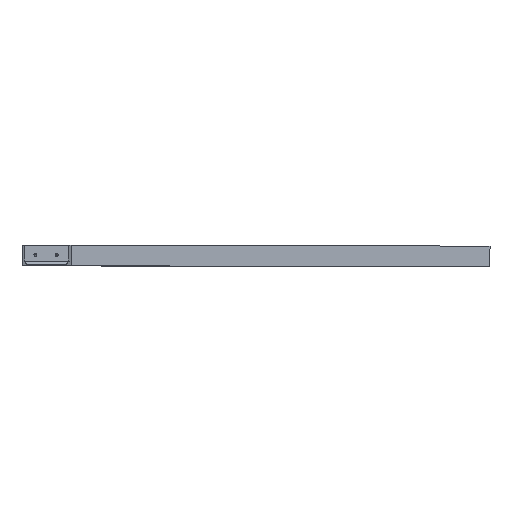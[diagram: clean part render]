
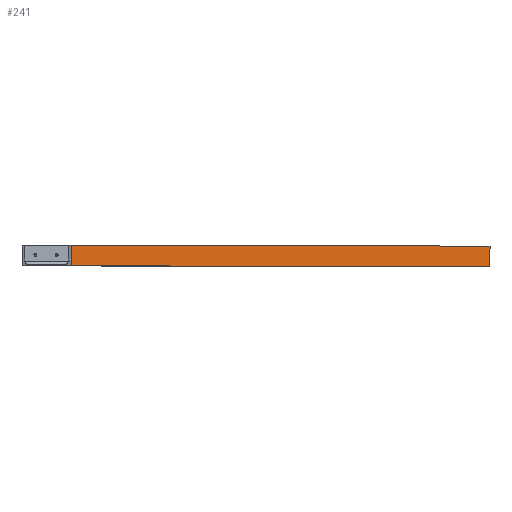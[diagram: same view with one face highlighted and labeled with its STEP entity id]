
A CAD part, top view. The second image highlights one B-rep face of the part: STEP entity #241.
In plain terms, the highlighted planar face has unit normal (0.707, 0, 0.707).
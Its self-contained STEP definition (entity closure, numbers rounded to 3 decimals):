
#124 = DIRECTION ( 'NONE',  ( -0.707, 0., -0.707 ) ) ;
#154 = FACE_OUTER_BOUND ( 'NONE', #2772, .T. ) ;
#241 = ADVANCED_FACE ( 'NONE', ( #154 ), #4562, .F. ) ;
#599 = VECTOR ( 'NONE', #2693, 1000. ) ;
#639 = ORIENTED_EDGE ( 'NONE', *, *, #850, .T. ) ;
#754 = AXIS2_PLACEMENT_3D ( 'NONE', #1750, #124, #2523 ) ;
#797 = DIRECTION ( 'NONE',  ( 0., 1., 0. ) ) ;
#837 = LINE ( 'NONE', #4047, #3122 ) ;
#841 = VECTOR ( 'NONE', #797, 1000. ) ;
#850 = EDGE_CURVE ( 'NONE', #4472, #3842, #1601, .T. ) ;
#868 = DIRECTION ( 'NONE',  ( 0., -1., 0. ) ) ;
#969 = ORIENTED_EDGE ( 'NONE', *, *, #2294, .T. ) ;
#1375 = CARTESIAN_POINT ( 'NONE',  ( 6874.558, 3545., -4000. ) ) ;
#1435 = EDGE_CURVE ( 'NONE', #4109, #2082, #837, .T. ) ;
#1549 = EDGE_CURVE ( 'NONE', #4109, #3842, #1873, .T. ) ;
#1601 = LINE ( 'NONE', #4812, #841 ) ;
#1750 = CARTESIAN_POINT ( 'NONE',  ( 5287.279, 3545., -2412.721 ) ) ;
#1873 = LINE ( 'NONE', #4709, #599 ) ;
#2082 = VERTEX_POINT ( 'NONE', #3013 ) ;
#2294 = EDGE_CURVE ( 'NONE', #2082, #4472, #2624, .T. ) ;
#2523 = DIRECTION ( 'NONE',  ( 0.707, 0., -0.707 ) ) ;
#2624 = LINE ( 'NONE', #5034, #2873 ) ;
#2693 = DIRECTION ( 'NONE',  ( 0.707, 0., -0.707 ) ) ;
#2772 = EDGE_LOOP ( 'NONE', ( #639, #5203, #3038, #969 ) ) ;
#2800 = CARTESIAN_POINT ( 'NONE',  ( 5340., 3620., -2465.442 ) ) ;
#2873 = VECTOR ( 'NONE', #5195, 1000. ) ;
#3013 = CARTESIAN_POINT ( 'NONE',  ( 5340., 3545., -2465.442 ) ) ;
#3038 = ORIENTED_EDGE ( 'NONE', *, *, #1435, .T. ) ;
#3108 = CARTESIAN_POINT ( 'NONE',  ( 6874.558, 3620., -4000. ) ) ;
#3122 = VECTOR ( 'NONE', #868, 1000. ) ;
#3842 = VERTEX_POINT ( 'NONE', #3108 ) ;
#4047 = CARTESIAN_POINT ( 'NONE',  ( 5340., 3545., -2465.442 ) ) ;
#4109 = VERTEX_POINT ( 'NONE', #2800 ) ;
#4472 = VERTEX_POINT ( 'NONE', #1375 ) ;
#4562 = PLANE ( 'NONE',  #754 ) ;
#4709 = CARTESIAN_POINT ( 'NONE',  ( 5287.279, 3620., -2412.721 ) ) ;
#4812 = CARTESIAN_POINT ( 'NONE',  ( 6874.558, 3545., -4000. ) ) ;
#5034 = CARTESIAN_POINT ( 'NONE',  ( 5287.279, 3545., -2412.721 ) ) ;
#5195 = DIRECTION ( 'NONE',  ( 0.707, 0., -0.707 ) ) ;
#5203 = ORIENTED_EDGE ( 'NONE', *, *, #1549, .F. ) ;
